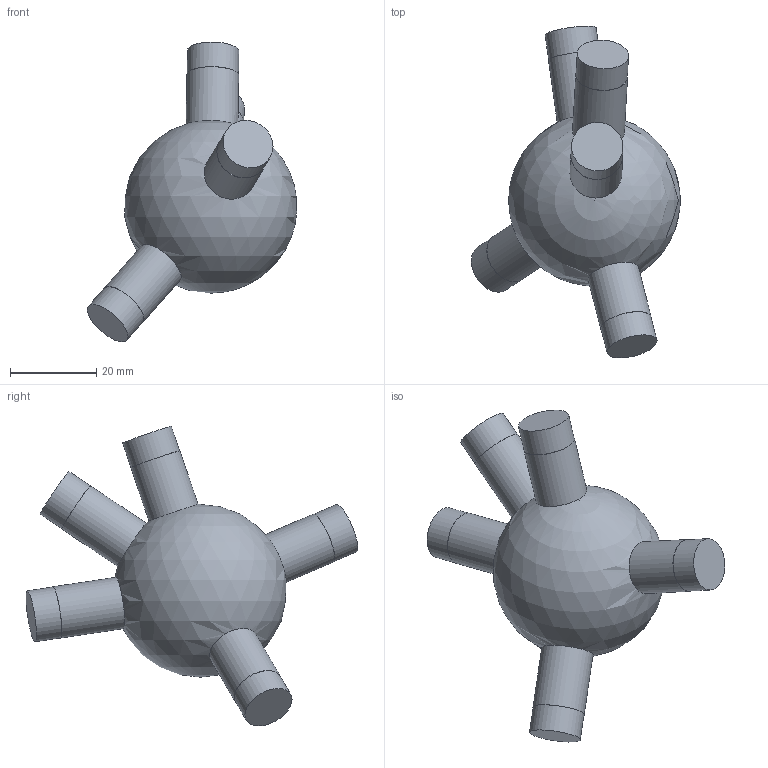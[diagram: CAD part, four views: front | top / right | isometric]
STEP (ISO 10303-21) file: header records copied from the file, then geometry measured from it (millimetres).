
FILE_DESCRIPTION(('Open CASCADE Model'),'2;1');
FILE_NAME('Open CASCADE Shape Model','2026-10-21T12:47:57',('Author'),( 'Open CASCADE'),'Open CASCADE STEP processor 7.9','Open CASCADE 7.9' ,'Unknown');
FILE_SCHEMA(('AUTOMOTIVE_DESIGN { 1 0 10303 214 1 1 1 1 }'));
Length unit declared in the file: millimetre
Products named in the file (1): Open CASCADE STEP translator 7.9 91
Bounding box: 48.5 x 76.84 x 69.37 mm (x, y, z)
Volume: 44567.3 mm3; surface area: 8795.7 mm2
Topology: 1 solids, 1 shells, 21 faces, 33 edges, 22 vertices
Faces by surface type: cylinder 10, plane 10, sphere 1
Full cylindrical faces by diameter (mm): 11.9 x5, 12 x5
Entity records: 1262 total; most frequent: CARTESIAN_POINT 537, DIRECTION 149, ORIENTED_EDGE 60, PCURVE 60, DEFINITIONAL_REPRESENTATION 60, LINE 50, VECTOR 50, AXIS2_PLACEMENT_3D 42
